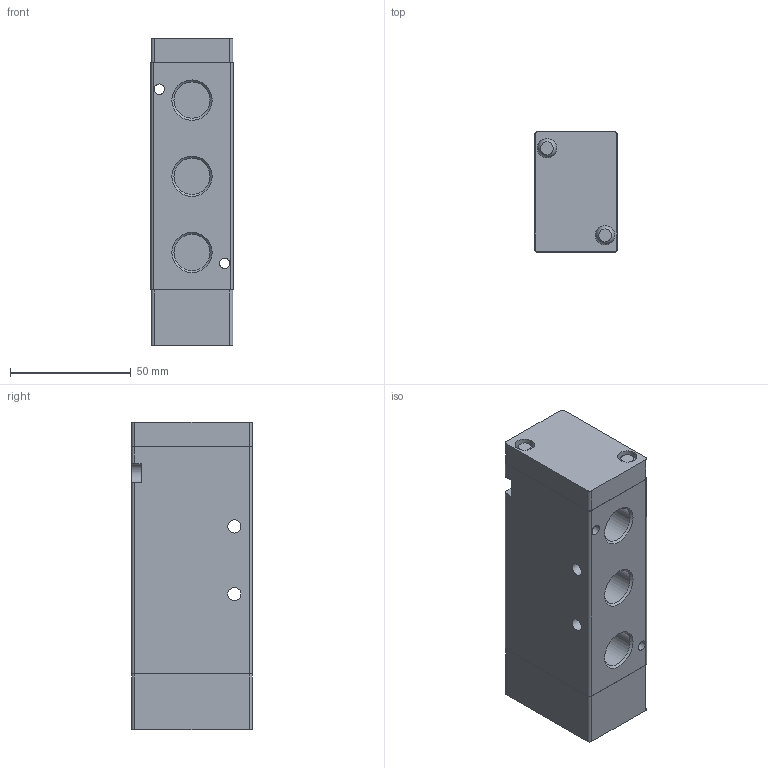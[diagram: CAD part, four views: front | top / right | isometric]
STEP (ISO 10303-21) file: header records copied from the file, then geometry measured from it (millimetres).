
FILE_DESCRIPTION( ( 'STEP AP214' ), '1' );
FILE_NAME( 'C:/Users/emc02044/Desktop/RVA五通/RVA5241-10.stp', '2026-07-31T02:20:33', ( 'License CC BY-ND 4.0' ), ( 'CADENAS' ), ' ', 'PARTsolutions', ' ' );
FILE_SCHEMA( ( 'AUTOMOTIVE_DESIGN { 1 0 10303 214 1 1 1 1 }' ) );
Length unit declared in the file: millimetre
Products named in the file (1): _RVA5241-10
Bounding box: 34 x 50 x 127 mm (x, y, z)
Volume: 200359 mm3; surface area: 30338.8 mm2
Topology: 1 solids, 1 shells, 72 faces, 166 edges, 108 vertices
Faces by surface type: plane 32, cylinder 30, cone 6, sphere 4
Full cylindrical faces by diameter (mm): 4.3 x2, 5.5 x2, 8 x4, 8.566 x1, 14.95 x5
Entity records: 2526 total; most frequent: DIRECTION 356, CARTESIAN_POINT 319, ORIENTED_EDGE 280, AXIS2_PLACEMENT_3D 143, EDGE_CURVE 140, EDGE_LOOP 116, VERTEX_POINT 106, FACE_OUTER_BOUND 90
